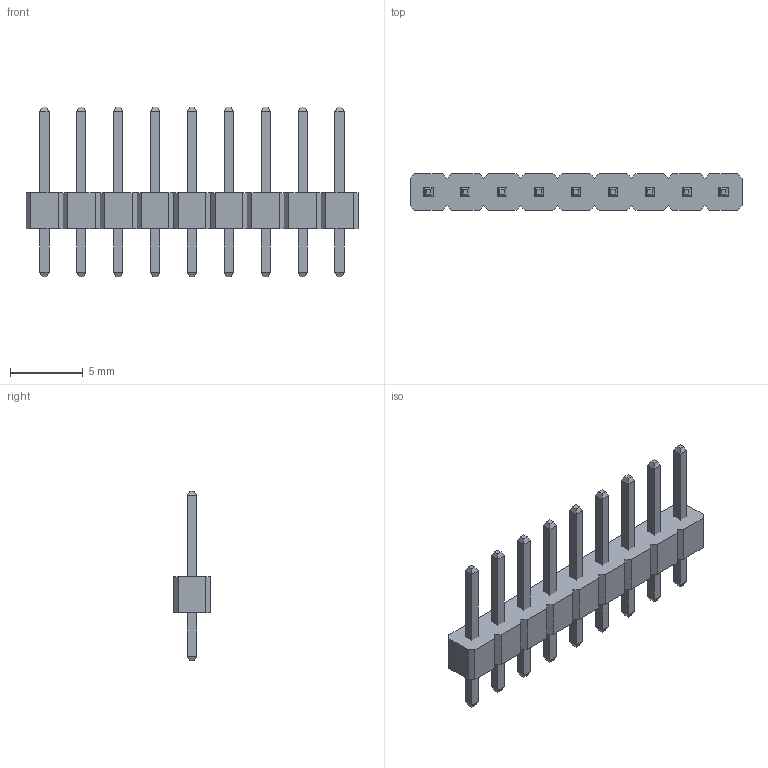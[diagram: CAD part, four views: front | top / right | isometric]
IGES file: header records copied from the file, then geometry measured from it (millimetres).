
Start section: Data from Parasolid IGES Translator 23.1.110, Copyright(c) 2006 Siemens PLM Software. All Rights Reserved.
Global section: file name: 5f3dd57b933f190f816bcad5.iges; native system: By Siemens PLM Incorporated; preprocessor: XPlus GENERIC/IGES 23.1.110; author: Noname; organization: Noname; date: 20200820.014427; units: metre
Bounding box: 22.86 x 2.54 x 11.68 mm (x, y, z)
Surface area: 524.1 mm2 (no closed solid volume)
Topology: 0 solids, 0 shells, 238 faces, 1056 edges, 1056 vertices
Faces by surface type: extrusion 238
